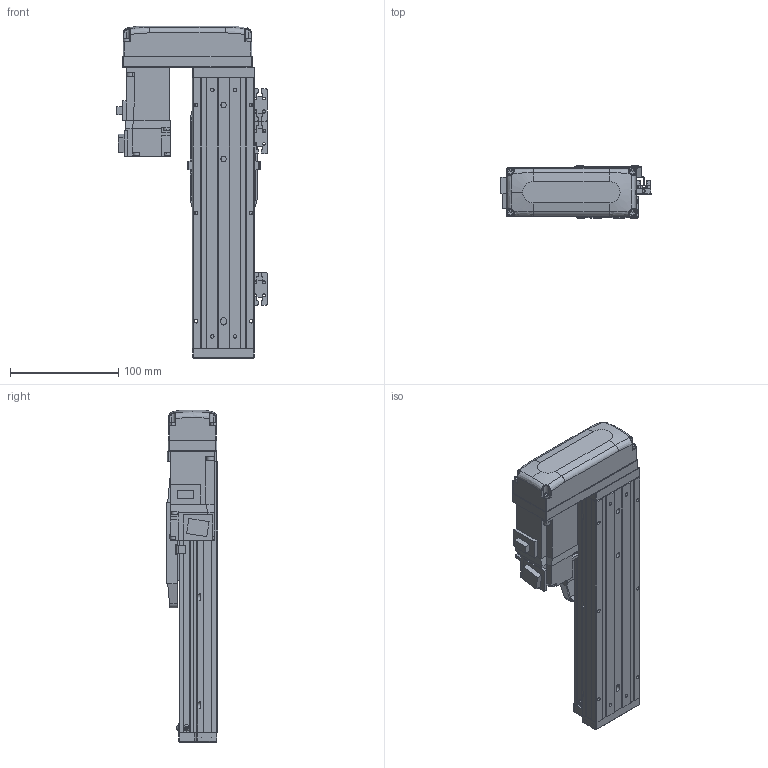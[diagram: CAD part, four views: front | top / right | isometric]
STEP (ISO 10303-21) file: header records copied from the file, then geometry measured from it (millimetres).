
FILE_DESCRIPTION (( 'STEP AP203' ), '1' );
FILE_NAME ('CTHA50-100-BR-M10-C4L.step', '2022-03-19T06:06:03', ( '微软用户' ), ( '微软中国' ), 'SwSTEP 2.0', 'SolidWorks 2020', '' );
FILE_SCHEMA (( 'CONFIG_CONTROL_DESIGN' ));
Length unit declared in the file: millimetre
Products named in the file (20): KTHA50-001_250; CTHA60-017; CTHA50-031; KTHA50-004; GBT 70.1-M4×12; GBT 70.3-M3℅6; KTHA50-005; CTHA60-016; CTHA50-015-2_CTHA60-015-2; GB¨uT 70.2-M3¡Á6_M3¡Á6; CTHA60-021; CTHA60-033; EE_SX911P_R; HG-KR13（三菱）; GBT 70.1-M3×15; GBT77-2000 M3×3; CTHA50-002; CTHA50-100-BR-M10-C4L; GBT 70.1-M3℅6; CTHA50-030
Assembly tree (60 placements, depth 2):
  CTHA50-100-BR-M10-C4L
    KTHA50-001_250
    KTHA50-004
    KTHA50-005
    GB¨uT 70.2-M3¡Á6_M3¡Á6  x10
    EE_SX911P_R  x3
    GBT77-2000 M3×3  x6
    GBT 70.1-M3℅6  x6
    CTHA60-017  x3
    GBT 70.1-M4×12  x10
    CTHA60-016  x2
    CTHA60-021  x2
    HG-KR13（三菱）
    CTHA50-002
    CTHA50-030  x2
    CTHA50-031
    GBT 70.3-M3℅6  x4
    CTHA50-015-2_CTHA60-015-2
    CTHA60-033
    GBT 70.1-M3×15  x4
Bounding box: 139.12 x 48 x 307 mm (x, y, z)
Volume: 800220 mm3; surface area: 211829.3 mm2
Topology: 62 solids, 62 shells, 2453 faces, 5799 edges, 3546 vertices
Faces by surface type: plane 1386, cylinder 564, cone 345, torus 108, bspline 26, sphere 24
Entity records: 40747 total; most frequent: CARTESIAN_POINT 7547, DIRECTION 6315, ORIENTED_EDGE 6106, EDGE_CURVE 3053, LINE 2127, VECTOR 2127, AXIS2_PLACEMENT_3D 2094, VERTEX_POINT 1920
